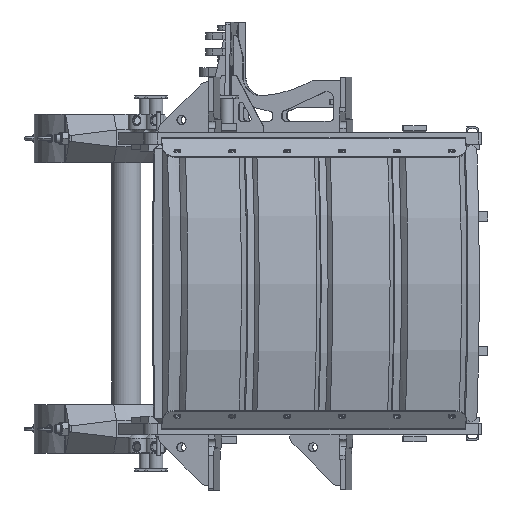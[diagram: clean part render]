
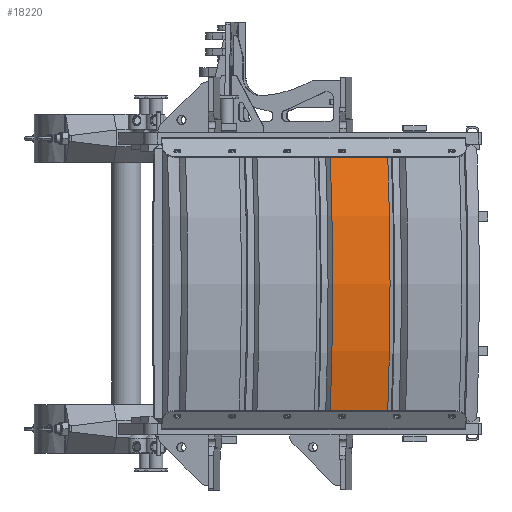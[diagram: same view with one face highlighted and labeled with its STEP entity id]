
A CAD part, left-side view. The second image highlights one B-rep face of the part: STEP entity #18220.
In plain terms, the highlighted cylindrical face has radius 2100 mm (diameter 4200 mm), a partial arc.
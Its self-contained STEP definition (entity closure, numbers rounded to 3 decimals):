
#1910=FACE_OUTER_BOUND('',#23885,.T.);
#6213=LINE('',#88744,#10784);
#6214=LINE('',#88748,#10785);
#10784=VECTOR('',#69040,1.);
#10785=VECTOR('',#69043,1.);
#18220=ADVANCED_FACE('',(#1910),#20011,.T.);
#20011=CYLINDRICAL_SURFACE('',#58382,2100.);
#23885=EDGE_LOOP('',(#33706,#33707,#33708,#33709));
#33706=ORIENTED_EDGE('',*,*,#49170,.T.);
#33707=ORIENTED_EDGE('',*,*,#49171,.T.);
#33708=ORIENTED_EDGE('',*,*,#49172,.T.);
#33709=ORIENTED_EDGE('',*,*,#49173,.T.);
#42899=VERTEX_POINT('',#88742);
#42900=VERTEX_POINT('',#88743);
#42901=VERTEX_POINT('',#88745);
#42902=VERTEX_POINT('',#88747);
#49170=EDGE_CURVE('',#42899,#42900,#54569,.T.);
#49171=EDGE_CURVE('',#42900,#42901,#6213,.T.);
#49172=EDGE_CURVE('',#42901,#42902,#54570,.T.);
#49173=EDGE_CURVE('',#42902,#42899,#6214,.T.);
#54569=CIRCLE('',#58380,2100.);
#54570=CIRCLE('',#58381,2100.);
#58380=AXIS2_PLACEMENT_3D('',#88741,#69038,#69039);
#58381=AXIS2_PLACEMENT_3D('',#88746,#69041,#69042);
#58382=AXIS2_PLACEMENT_3D('',#88749,#69044,#69045);
#69038=DIRECTION('',(-0.131,0.991,0.));
#69039=DIRECTION('',(-0.991,-0.131,0.));
#69040=DIRECTION('',(-0.131,0.991,0.));
#69041=DIRECTION('',(0.131,-0.991,0.));
#69042=DIRECTION('',(0.991,0.131,0.));
#69043=DIRECTION('',(0.131,-0.991,0.));
#69044=DIRECTION('',(0.131,-0.991,0.));
#69045=DIRECTION('',(0.991,0.131,0.));
#88741=CARTESIAN_POINT('',(660.886,-970.133,0.));
#88742=CARTESIAN_POINT('',(-1340.95,-1233.679,-577.232));
#88743=CARTESIAN_POINT('',(-1340.95,-1233.679,577.232));
#88744=CARTESIAN_POINT('',(-1477.754,-194.55,577.232));
#88745=CARTESIAN_POINT('',(-1373.764,-984.429,577.232));
#88746=CARTESIAN_POINT('',(628.071,-720.882,0.));
#88747=CARTESIAN_POINT('',(-1373.764,-984.429,-577.232));
#88748=CARTESIAN_POINT('',(-1477.754,-194.55,-577.232));
#88749=CARTESIAN_POINT('',(524.082,68.997,0.));
